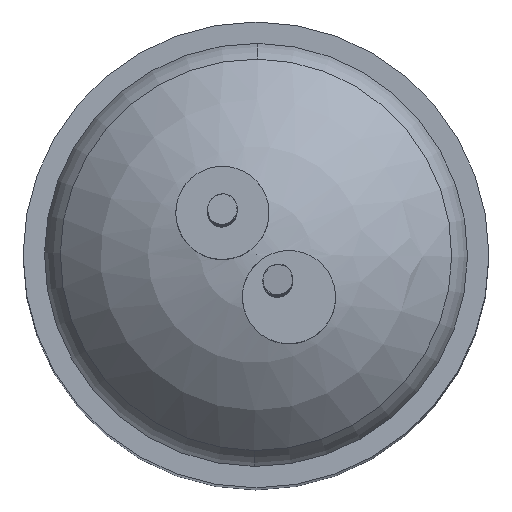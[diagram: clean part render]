
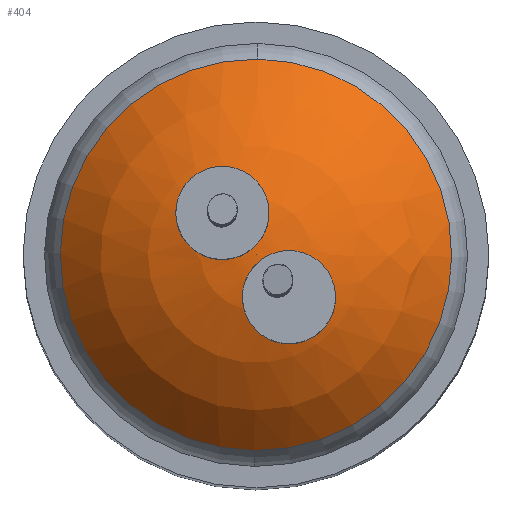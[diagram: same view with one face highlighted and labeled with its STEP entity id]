
A CAD part, top view. The second image highlights one B-rep face of the part: STEP entity #404.
In plain terms, the highlighted spherical face has radius 1.662 mm.
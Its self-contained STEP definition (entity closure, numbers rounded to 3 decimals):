
#10 = CARTESIAN_POINT ( 'NONE',  ( 4.342, 5.042, 10.728 ) ) ;
#20 = CARTESIAN_POINT ( 'NONE',  ( 3.898, 4.664, 10.722 ) ) ;
#28 = CARTESIAN_POINT ( 'NONE',  ( 3.911, 5.591, 10.673 ) ) ;
#33 = ORIENTED_EDGE ( 'NONE', *, *, #409, .T. ) ;
#34 = AXIS2_PLACEMENT_3D ( 'NONE', #535, #656, #173 ) ;
#36 = CARTESIAN_POINT ( 'NONE',  ( 3.935, 4.588, 10.704 ) ) ;
#47 = CARTESIAN_POINT ( 'NONE',  ( 3.921, 5.053, 10.765 ) ) ;
#57 = FACE_OUTER_BOUND ( 'NONE', #461, .T. ) ;
#62 = CARTESIAN_POINT ( 'NONE',  ( 4.479, 4.62, 10.635 ) ) ;
#87 = CARTESIAN_POINT ( 'NONE',  ( 3.543, 5.087, 10.708 ) ) ;
#89 = AXIS2_PLACEMENT_3D ( 'NONE', #400, #285, #412 ) ;
#90 = EDGE_LOOP ( 'NONE', ( #375, #674 ) ) ;
#95 = CARTESIAN_POINT ( 'NONE',  ( 3.989, 5.095, 10.767 ) ) ;
#99 = CARTESIAN_POINT ( 'NONE',  ( 3.916, 4.904, 10.761 ) ) ;
#152 = CARTESIAN_POINT ( 'NONE',  ( 3.671, 5.616, 10.634 ) ) ;
#158 = CARTESIAN_POINT ( 'NONE',  ( 4.077, 5.322, 10.741 ) ) ;
#161 = EDGE_LOOP ( 'NONE', ( #536, #703 ) ) ;
#173 = DIRECTION ( 'NONE',  ( 0.009, 1., 0. ) ) ;
#183 = CARTESIAN_POINT ( 'NONE',  ( 4.213, 4.458, 10.643 ) ) ;
#191 = CARTESIAN_POINT ( 'NONE',  ( 4.496, 4.86, 10.676 ) ) ;
#221 = ORIENTED_EDGE ( 'NONE', *, *, #634, .T. ) ;
#222 = CARTESIAN_POINT ( 'NONE',  ( 3.446, 5.305, 10.657 ) ) ;
#225 = CARTESIAN_POINT ( 'NONE',  ( 4.053, 4.482, 10.669 ) ) ;
#226 = B_SPLINE_CURVE_WITH_KNOTS ( 'NONE', 3,
 ( #445, #384, #394, #630, #87, #320, #222, #270, #509, #449 ),
 .UNSPECIFIED., .F., .F.,
 ( 4, 2, 2, 2, 4 ),
 ( 0.002, 0.002, 0.002, 0.002, 0.002 ),
 .UNSPECIFIED. ) ;
#236 = CARTESIAN_POINT ( 'NONE',  ( 3.993, 6.321, 10.163 ) ) ;
#263 = VERTEX_POINT ( 'NONE', #515 ) ;
#268 = CARTESIAN_POINT ( 'NONE',  ( 3.602, 5.573, 10.632 ) ) ;
#270 = CARTESIAN_POINT ( 'NONE',  ( 3.483, 5.461, 10.635 ) ) ;
#274 = CARTESIAN_POINT ( 'NONE',  ( 3.979, 5.541, 10.691 ) ) ;
#285 = DIRECTION ( 'NONE',  ( 0., 0., 1. ) ) ;
#297 = DIRECTION ( 'NONE',  ( 0.009, 1., 0. ) ) ;
#316 = B_SPLINE_CURVE_WITH_KNOTS ( 'NONE', 3,
 ( #797, #365, #10, #425, #191, #496, #62, #429, #745, #183 ),
 .UNSPECIFIED., .F., .F.,
 ( 4, 2, 2, 2, 4 ),
 ( 0.001, 0.001, 0.001, 0.001, 0.002 ),
 .UNSPECIFIED. ) ;
#320 = CARTESIAN_POINT ( 'NONE',  ( 3.461, 5.221, 10.674 ) ) ;
#330 = CARTESIAN_POINT ( 'NONE',  ( 3.921, 5.053, 10.765 ) ) ;
#334 = CARTESIAN_POINT ( 'NONE',  ( 4.101, 5.062, 10.763 ) ) ;
#357 = CARTESIAN_POINT ( 'NONE',  ( 3.981, 5.041, 10.163 ) ) ;
#365 = CARTESIAN_POINT ( 'NONE',  ( 4.262, 5.071, 10.744 ) ) ;
#370 = EDGE_CURVE ( 'Defeatured_0_5+Defeatured_0_9+Defeatured_0_9+Defeatured_0_9', #511, #263, #570, .T. ) ;
#375 = ORIENTED_EDGE ( 'NONE', *, *, #549, .T. ) ;
#381 = EDGE_CURVE ( 'Defeatured_0_5+Defeatured_0_11+Defeatured_0_11+Defeatured_0_11', #750, #720, #226, .T. ) ;
#384 = CARTESIAN_POINT ( 'NONE',  ( 3.852, 5.012, 10.762 ) ) ;
#389 = EDGE_CURVE ( 'Defeatured_0_5+Defeatured_0_11+Defeatured_0_11+Defeatured_0_11', #720, #750, #626, .T. ) ;
#394 = CARTESIAN_POINT ( 'NONE',  ( 3.767, 4.998, 10.753 ) ) ;
#400 = CARTESIAN_POINT ( 'NONE',  ( 3.981, 5.041, 9.104 ) ) ;
#404 = ADVANCED_FACE ( 'Defeatured_0_5', ( #418, #57, #523 ), #718, .T. ) ;
#409 = EDGE_CURVE ( 'Defeatured_0_5+Defeatured_0_4+Defeatured_0_4+Defeatured_0_4', #463, #576, #440, .T. ) ;
#412 = DIRECTION ( 'NONE',  ( 1., -0.009, 0. ) ) ;
#418 = FACE_BOUND ( 'NONE', #90, .T. ) ;
#425 = CARTESIAN_POINT ( 'NONE',  ( 4.46, 4.936, 10.694 ) ) ;
#429 = CARTESIAN_POINT ( 'NONE',  ( 4.372, 4.5, 10.628 ) ) ;
#433 = CARTESIAN_POINT ( 'NONE',  ( 3.97, 3.761, 10.163 ) ) ;
#440 = CIRCLE ( 'NONE', #34, 1.28 ) ;
#445 = CARTESIAN_POINT ( 'NONE',  ( 3.921, 5.053, 10.765 ) ) ;
#449 = CARTESIAN_POINT ( 'NONE',  ( 3.602, 5.573, 10.632 ) ) ;
#453 = CARTESIAN_POINT ( 'NONE',  ( 4.063, 5.406, 10.725 ) ) ;
#461 = EDGE_LOOP ( 'NONE', ( #33, #221 ) ) ;
#463 = VERTEX_POINT ( 'NONE', #236 ) ;
#496 = CARTESIAN_POINT ( 'NONE',  ( 4.506, 4.702, 10.646 ) ) ;
#509 = CARTESIAN_POINT ( 'NONE',  ( 3.534, 5.531, 10.629 ) ) ;
#511 = VERTEX_POINT ( 'NONE', #596 ) ;
#515 = CARTESIAN_POINT ( 'NONE',  ( 4.181, 5.067, 10.754 ) ) ;
#523 = FACE_BOUND ( 'NONE', #161, .T. ) ;
#535 = CARTESIAN_POINT ( 'NONE',  ( 3.981, 5.041, 10.163 ) ) ;
#536 = ORIENTED_EDGE ( 'NONE', *, *, #389, .T. ) ;
#540 = CIRCLE ( 'NONE', #643, 1.28 ) ;
#549 = EDGE_CURVE ( 'Defeatured_0_5+Defeatured_0_9+Defeatured_0_9+Defeatured_0_9', #263, #511, #316, .T. ) ;
#564 = CARTESIAN_POINT ( 'NONE',  ( 4.213, 4.458, 10.643 ) ) ;
#570 = B_SPLINE_CURVE_WITH_KNOTS ( 'NONE', 3,
 ( #564, #572, #225, #36, #20, #640, #99, #704, #334, #755 ),
 .UNSPECIFIED., .F., .F.,
 ( 4, 2, 2, 2, 4 ),
 ( 0.002, 0.002, 0.002, 0.002, 0.003 ),
 .UNSPECIFIED. ) ;
#572 = CARTESIAN_POINT ( 'NONE',  ( 4.133, 4.454, 10.653 ) ) ;
#576 = VERTEX_POINT ( 'NONE', #433 ) ;
#596 = CARTESIAN_POINT ( 'NONE',  ( 4.213, 4.458, 10.643 ) ) ;
#601 = DIRECTION ( 'NONE',  ( 0., 0., 1. ) ) ;
#626 = B_SPLINE_CURVE_WITH_KNOTS ( 'NONE', 3,
 ( #695, #152, #633, #28, #274, #453, #158, #637, #95, #330 ),
 .UNSPECIFIED., .F., .F.,
 ( 4, 2, 2, 2, 4 ),
 ( 0.001, 0.001, 0.001, 0.001, 0.002 ),
 .UNSPECIFIED. ) ;
#630 = CARTESIAN_POINT ( 'NONE',  ( 3.611, 5.037, 10.726 ) ) ;
#633 = CARTESIAN_POINT ( 'NONE',  ( 3.757, 5.628, 10.644 ) ) ;
#634 = EDGE_CURVE ( 'Defeatured_0_5+Defeatured_0_4+Defeatured_0_4+Defeatured_0_4', #576, #463, #540, .T. ) ;
#637 = CARTESIAN_POINT ( 'NONE',  ( 4.04, 5.166, 10.762 ) ) ;
#640 = CARTESIAN_POINT ( 'NONE',  ( 3.888, 4.823, 10.751 ) ) ;
#643 = AXIS2_PLACEMENT_3D ( 'NONE', #357, #601, #297 ) ;
#656 = DIRECTION ( 'NONE',  ( 0., 0., 1. ) ) ;
#674 = ORIENTED_EDGE ( 'NONE', *, *, #370, .T. ) ;
#695 = CARTESIAN_POINT ( 'NONE',  ( 3.602, 5.573, 10.632 ) ) ;
#703 = ORIENTED_EDGE ( 'NONE', *, *, #381, .T. ) ;
#704 = CARTESIAN_POINT ( 'NONE',  ( 4.023, 5.025, 10.767 ) ) ;
#718 = SPHERICAL_SURFACE ( 'NONE', #89, 1.662 ) ;
#720 = VERTEX_POINT ( 'NONE', #268 ) ;
#745 = CARTESIAN_POINT ( 'NONE',  ( 4.293, 4.462, 10.632 ) ) ;
#750 = VERTEX_POINT ( 'NONE', #47 ) ;
#755 = CARTESIAN_POINT ( 'NONE',  ( 4.181, 5.067, 10.754 ) ) ;
#797 = CARTESIAN_POINT ( 'NONE',  ( 4.181, 5.067, 10.754 ) ) ;
